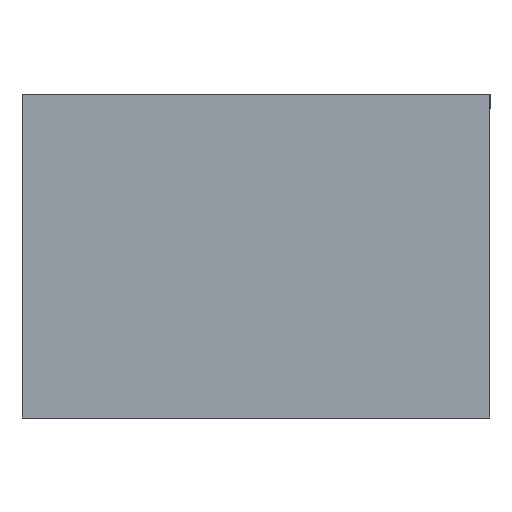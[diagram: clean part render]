
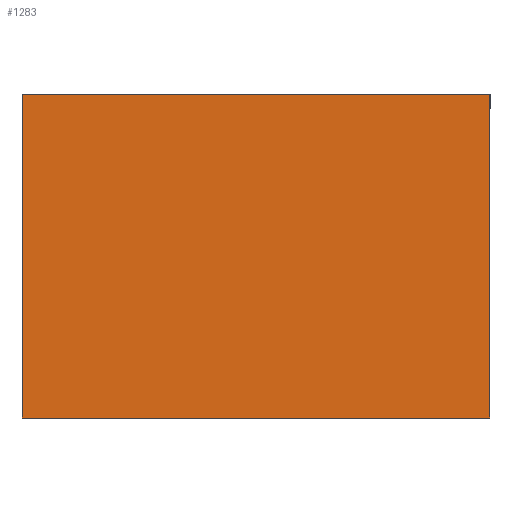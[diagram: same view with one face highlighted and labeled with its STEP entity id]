
A CAD part, front view. The second image highlights one B-rep face of the part: STEP entity #1283.
In plain terms, the highlighted planar face has unit normal (0, -1, 0).
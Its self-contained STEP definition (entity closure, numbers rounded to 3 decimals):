
#38 = CARTESIAN_POINT ( 'NONE',  ( -32.5, 0., 22.5 ) ) ;
#64 = CARTESIAN_POINT ( 'NONE',  ( 0., 0., 0. ) ) ;
#150 = CARTESIAN_POINT ( 'NONE',  ( 32.5, 0., -22.5 ) ) ;
#214 = LINE ( 'NONE', #2433, #600 ) ;
#261 = PLANE ( 'NONE',  #1333 ) ;
#413 = DIRECTION ( 'NONE',  ( 0., 1., 0. ) ) ;
#417 = DIRECTION ( 'NONE',  ( 0., 0., 1. ) ) ;
#482 = ORIENTED_EDGE ( 'NONE', *, *, #2142, .F. ) ;
#600 = VECTOR ( 'NONE', #1449, 1000. ) ;
#885 = VECTOR ( 'NONE', #1223, 1000. ) ;
#896 = FACE_OUTER_BOUND ( 'NONE', #1827, .T. ) ;
#924 = DIRECTION ( 'NONE',  ( -1., 0., 0. ) ) ;
#941 = LINE ( 'NONE', #1033, #885 ) ;
#1033 = CARTESIAN_POINT ( 'NONE',  ( -32.5, 0., -22.5 ) ) ;
#1169 = VERTEX_POINT ( 'NONE', #2016 ) ;
#1174 = VECTOR ( 'NONE', #1420, 1000. ) ;
#1223 = DIRECTION ( 'NONE',  ( 0., 0., 1. ) ) ;
#1283 = ADVANCED_FACE ( 'NONE', ( #896 ), #261, .F. ) ;
#1333 = AXIS2_PLACEMENT_3D ( 'NONE', #64, #413, #417 ) ;
#1420 = DIRECTION ( 'NONE',  ( 1., 0., 0. ) ) ;
#1449 = DIRECTION ( 'NONE',  ( 0., 0., -1. ) ) ;
#1574 = ORIENTED_EDGE ( 'NONE', *, *, #2211, .F. ) ;
#1618 = VERTEX_POINT ( 'NONE', #38 ) ;
#1643 = VERTEX_POINT ( 'NONE', #2227 ) ;
#1681 = LINE ( 'NONE', #2207, #1174 ) ;
#1684 = VECTOR ( 'NONE', #924, 1000. ) ;
#1827 = EDGE_LOOP ( 'NONE', ( #2424, #482, #2064, #1574 ) ) ;
#1880 = CARTESIAN_POINT ( 'NONE',  ( -32.5, 0., -22.5 ) ) ;
#1943 = VERTEX_POINT ( 'NONE', #150 ) ;
#2016 = CARTESIAN_POINT ( 'NONE',  ( 32.5, 0., 22.5 ) ) ;
#2064 = ORIENTED_EDGE ( 'NONE', *, *, #2280, .F. ) ;
#2142 = EDGE_CURVE ( 'NONE', #1618, #1169, #1681, .T. ) ;
#2186 = EDGE_CURVE ( 'NONE', #1169, #1943, #214, .T. ) ;
#2207 = CARTESIAN_POINT ( 'NONE',  ( -32.5, 0., 22.5 ) ) ;
#2211 = EDGE_CURVE ( 'NONE', #1943, #1643, #2288, .T. ) ;
#2227 = CARTESIAN_POINT ( 'NONE',  ( -32.5, 0., -22.5 ) ) ;
#2280 = EDGE_CURVE ( 'NONE', #1643, #1618, #941, .T. ) ;
#2288 = LINE ( 'NONE', #1880, #1684 ) ;
#2424 = ORIENTED_EDGE ( 'NONE', *, *, #2186, .F. ) ;
#2433 = CARTESIAN_POINT ( 'NONE',  ( 32.5, 0., -22.5 ) ) ;
